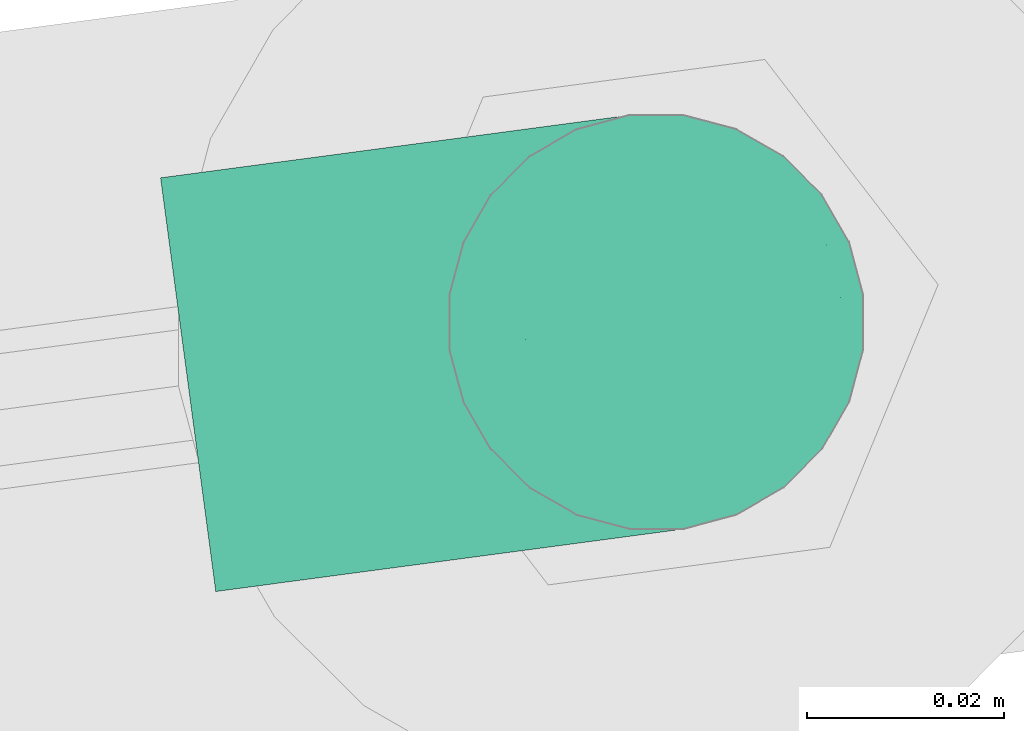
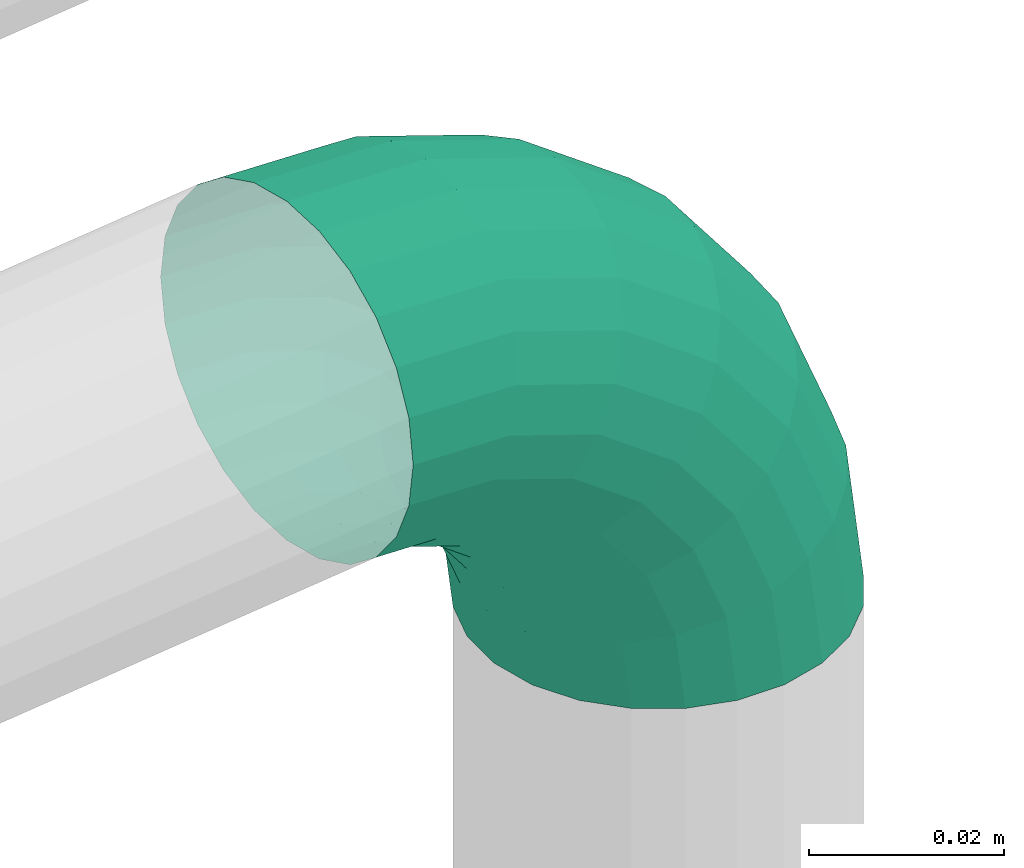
# One storey, part 328 of 374: 1 flow segment.
"""IFC2X3 building model written with IfcOpenShell, lengths in metres."""

from ifc_helpers import new_model, si_unit, direction, origin, place, context, subcontext, project, spatial, open_shell, surface_model, source, transform, mapped, element, save


model = new_model("IFC2X3")

# Units and contexts
model_context = context("Model", 3, precision=1e-05, world=origin(), true_north=direction((-0.4480736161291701, 0.8939966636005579)))
body_context = subcontext(model_context, "Body", "Model", "MODEL_VIEW")
ifc_project = project(units=[si_unit("LENGTHUNIT", "METRE"), si_unit("AREAUNIT", "SQUARE_METRE"), si_unit("VOLUMEUNIT", "CUBIC_METRE"), si_unit("PLANEANGLEUNIT", "RADIAN"), si_unit("THERMODYNAMICTEMPERATUREUNIT", "KELVIN"), si_unit("MASSUNIT", "GRAM", prefix="KILO"), si_unit("TIMEUNIT", "SECOND")], contexts=[model_context])

# Site, building, storey
site_placement = place(None, origin())
site = spatial("IfcSite", under=ifc_project, at=site_placement, Name="Site 1", CompositionType="ELEMENT")
building_placement = place(site_placement, origin())
building = spatial("IfcBuilding", under=site, at=building_placement, Name="Undefined", CompositionType="ELEMENT")
storey_placement = place(building_placement, origin())
storey = spatial("IfcBuildingStorey", under=building, at=storey_placement, Name="Rez de chauss\x8ee", CompositionType="ELEMENT", Elevation=0.0)

# Flow segment
shared_shape = source(origin(), body_context, "Body", "SurfaceModel", [
    surface_model("IfcFaceBasedSurfaceModel", [(0.01806482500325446, 7.105427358e-15, 0.0), (0.017970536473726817, 0.005533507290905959, 0.0), (9.428852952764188e-05, 0.005533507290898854, 0.0), (0.0, 0.0, 0.0), (-0.017172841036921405, 0.00613233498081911, -0.004587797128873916), (-0.01744928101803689, 0.0006051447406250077, -0.004636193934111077), (-0.03265412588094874, 0.007289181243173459, -0.013450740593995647), (-0.0330938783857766, 0.0017741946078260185, -0.013592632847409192), (-0.045294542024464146, 0.008925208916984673, -0.02598483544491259), (-0.045867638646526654, 0.0034274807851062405, -0.02625895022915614), (-0.054232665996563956, 0.010928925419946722, -0.041335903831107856), (-0.05490005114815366, 0.005452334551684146, -0.04177195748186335), (-0.05885937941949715, 0.013163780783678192, -0.05845779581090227), (-0.059575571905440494, 0.007710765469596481, -0.05907446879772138), (0.01769409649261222, 0.010875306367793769, -0.0014203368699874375), (0.00037072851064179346, 0.010875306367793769, -0.0014203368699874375), (-0.016362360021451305, 0.011455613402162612, -0.005866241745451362), (-0.03136483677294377, 0.012576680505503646, -0.014455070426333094), (-0.04361430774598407, 0.014162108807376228, -0.026601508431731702), (-0.05227599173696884, 0.016103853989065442, -0.0414777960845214), (-0.05675960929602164, 0.018269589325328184, -0.05807013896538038), (0.017254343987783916, 0.015661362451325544, -0.0041642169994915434), (0.0008104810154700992, 0.015661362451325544, -0.004164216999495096), (-0.01507307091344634, 0.016212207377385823, -0.008384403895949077), (-0.029313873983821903, 0.01727635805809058, -0.016537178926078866), (-0.04094144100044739, 0.01878129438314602, -0.02806694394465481), (-0.049163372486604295, 0.02062445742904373, -0.042187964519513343), (-0.05341935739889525, 0.02268023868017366, -0.05793791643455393), (0.016681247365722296, 0.01956551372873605, -0.008044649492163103), (0.001383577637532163, 0.01956551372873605, -0.008044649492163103), (-0.01339283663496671, 0.020077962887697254, -0.011970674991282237), (-0.026641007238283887, 0.021067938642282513, -0.01955517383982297), (-0.03745809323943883, 0.02246797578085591, -0.03028127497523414), (-0.04510692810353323, 0.0241826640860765, -0.04341801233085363), (-0.04906625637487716, 0.026095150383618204, -0.05807013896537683), (0.016013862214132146, 0.022321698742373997, -0.012797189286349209), (0.0020509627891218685, 0.022321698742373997, -0.012797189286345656), (-0.011436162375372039, 0.02278943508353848, -0.016380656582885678), (-0.023528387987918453, 0.02369303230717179, -0.023303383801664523), (-0.03340164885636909, 0.024970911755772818, -0.03309359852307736), (-0.040383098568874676, 0.026535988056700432, -0.04508411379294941), (-0.04399696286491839, 0.028281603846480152, -0.05845779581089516), (0.015297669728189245, 0.023742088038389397, -0.018097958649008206), (0.00276715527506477, 0.023742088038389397, -0.018097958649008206), (-0.009336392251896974, 0.024161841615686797, -0.021313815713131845), (-0.02018813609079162, 0.02497274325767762, -0.0275263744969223), (-0.029048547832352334, 0.02611953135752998, -0.03631225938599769), (-0.03531380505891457, 0.027524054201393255, -0.04707272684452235), (-0.0385569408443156, 0.02909059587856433, -0.05907446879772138), (0.014581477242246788, 0.023729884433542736, -0.02358571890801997), (0.0034833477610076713, 0.023729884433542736, -0.02358571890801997), (-0.007236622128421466, 0.024101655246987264, -0.026433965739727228), (-0.016847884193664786, 0.02481986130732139, -0.03193635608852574), (-0.02469544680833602, 0.02583555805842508, -0.03971791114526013), (-0.0302445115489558, 0.027079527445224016, -0.04924833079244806), (-0.03311691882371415, 0.02846699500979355, -0.059878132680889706), (0.013914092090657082, 0.02228591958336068, -0.02888648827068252), (0.004150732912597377, 0.022285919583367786, -0.028886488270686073), (-0.005279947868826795, 0.022612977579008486, -0.031392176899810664), (-0.013735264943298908, 0.023244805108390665, -0.03623279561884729), (-0.020639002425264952, 0.02413834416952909, -0.04307846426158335), (-0.025520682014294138, 0.025232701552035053, -0.051462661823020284), (-0.028047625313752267, 0.026453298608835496, -0.060814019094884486), (0.013340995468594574, 0.01950859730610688, -0.03363902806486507), (0.0047238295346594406, 0.01950859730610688, -0.033639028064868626), (-0.0035997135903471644, 0.019797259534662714, -0.035850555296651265), (-0.011062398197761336, 0.0203549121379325, -0.04012289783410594), (-0.017155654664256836, 0.021143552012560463, -0.04616490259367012), (-0.02146423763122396, 0.022109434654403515, -0.05356481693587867), (-0.02369452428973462, 0.023186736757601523, -0.06181834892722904), (0.012901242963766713, 0.015587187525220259, -0.037519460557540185), (0.005163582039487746, 0.015587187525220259, -0.03751946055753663), (-0.0023104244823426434, 0.015846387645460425, -0.03950526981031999), (-0.009011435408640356, 0.016347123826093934, -0.043341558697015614), (-0.01448278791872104, 0.017055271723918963, -0.048766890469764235), (-0.018351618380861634, 0.017922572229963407, -0.05541153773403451), (-0.02035427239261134, 0.018889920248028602, -0.06282267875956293), (0.012624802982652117, 0.010788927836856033, -0.040263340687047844), (0.005440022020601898, 0.010788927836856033, -0.0402633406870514), (-0.0014999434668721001, 0.011029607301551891, -0.04210725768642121), (-0.007722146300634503, 0.01149456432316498, -0.045669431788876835), (-0.012802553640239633, 0.012152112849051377, -0.05070710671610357), (-0.0163949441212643, 0.012957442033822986, -0.056876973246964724), (-0.018254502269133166, 0.013855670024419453, -0.06375856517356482), (0.012530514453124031, 0.005440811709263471, -0.041683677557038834), (0.005534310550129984, 0.0054408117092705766, -0.041683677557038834), (-0.0012235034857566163, 0.005675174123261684, -0.04347919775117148), (-0.007282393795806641, 0.006127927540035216, -0.046947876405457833), (-0.012229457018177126, 0.0067682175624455, -0.05185332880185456), (-0.015727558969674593, 0.007552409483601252, -0.05786125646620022), (-0.01753830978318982, 0.008427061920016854, -0.0645622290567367), (0.012624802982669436, -9.269558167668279e-05, -0.04168367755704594), (0.005440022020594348, -9.269558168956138e-05, -0.04168367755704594), (-0.001499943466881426, 0.00014798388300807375, -0.043527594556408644), (-0.007722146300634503, 0.0006129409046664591, -0.047089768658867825), (-0.012802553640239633, 0.001270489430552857, -0.05212744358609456), (-0.0163949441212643, 0.002075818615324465, -0.058297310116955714), (-0.018254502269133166, 0.0029740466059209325, -0.06517890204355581), (0.012901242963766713, -0.005434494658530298, -0.0402633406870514), (0.005163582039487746, -0.005434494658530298, -0.040263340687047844), (-0.0023104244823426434, -0.005175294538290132, -0.0422491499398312), (-0.009011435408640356, -0.004674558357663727, -0.046085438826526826), (-0.01448278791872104, -0.0039664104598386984, -0.051510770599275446), (-0.018351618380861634, -0.0030991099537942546, -0.05815541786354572), (-0.02035427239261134, -0.0021317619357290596, -0.06556655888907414), (0.013340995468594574, -0.010220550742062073, -0.03751946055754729), (0.0047238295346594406, -0.010220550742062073, -0.03751946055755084), (-0.0035997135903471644, -0.009931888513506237, -0.03973098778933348), (-0.011062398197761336, -0.009374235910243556, -0.04400333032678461), (-0.017155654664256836, -0.00858559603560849, -0.05004533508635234), (-0.02146423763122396, -0.007619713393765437, -0.057445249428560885), (-0.02369452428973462, -0.006542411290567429, -0.06569878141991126), (0.013914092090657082, -0.01412470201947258, -0.03363902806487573), (0.004150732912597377, -0.014124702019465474, -0.033639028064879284), (-0.005279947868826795, -0.013797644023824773, -0.036144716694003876), (-0.013735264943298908, -0.013165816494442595, -0.0409853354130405), (-0.020639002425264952, -0.012272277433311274, -0.04783100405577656), (-0.025520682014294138, -0.011177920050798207, -0.05621520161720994), (-0.028047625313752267, -0.009957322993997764, -0.0655665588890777), (0.014581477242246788, -0.01688088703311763, -0.028886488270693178), (0.0034833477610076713, -0.01688088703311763, -0.028886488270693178), (-0.007236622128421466, -0.016509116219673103, -0.031734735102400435), (-0.016847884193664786, -0.015790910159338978, -0.03723712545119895), (-0.02469544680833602, -0.014775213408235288, -0.04501868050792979), (-0.0302445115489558, -0.01353124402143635, -0.054549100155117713), (-0.03311691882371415, -0.012143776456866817, -0.06517890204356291), (0.015297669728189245, -0.01830127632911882, -0.02358571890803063), (0.00276715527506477, -0.01830127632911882, -0.02358571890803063), (-0.009336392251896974, -0.01788152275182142, -0.026801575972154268), (-0.02018813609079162, -0.017070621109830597, -0.033014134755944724), (-0.029048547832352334, -0.01592383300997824, -0.04180001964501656), (-0.03531380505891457, -0.014519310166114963, -0.05256048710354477), (-0.0385569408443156, -0.012952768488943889, -0.06456222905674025), (0.016013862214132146, -0.01828907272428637, -0.018097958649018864), (0.0020509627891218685, -0.01828907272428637, -0.018097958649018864), (-0.011436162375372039, -0.01782133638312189, -0.021681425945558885), (-0.023528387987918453, -0.016917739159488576, -0.02860415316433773), (-0.03340164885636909, -0.01563985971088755, -0.038394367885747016), (-0.040383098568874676, -0.014074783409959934, -0.05038488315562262), (-0.04399696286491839, -0.012329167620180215, -0.06375856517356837), (0.016681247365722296, -0.01684510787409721, -0.012797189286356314), (0.001383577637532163, -0.01684510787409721, -0.012797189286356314), (-0.01339283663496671, -0.016332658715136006, -0.01672321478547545), (-0.026641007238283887, -0.015342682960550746, -0.02430771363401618), (-0.03745809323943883, -0.01394264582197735, -0.03503381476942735), (-0.04510692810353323, -0.01222795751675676, -0.04817055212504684), (-0.04906625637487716, -0.010315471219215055, -0.06282267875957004), (0.017254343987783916, -0.014067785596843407, -0.008044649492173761), (0.0008104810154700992, -0.014067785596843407, -0.008044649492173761), (-0.01507307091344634, -0.013516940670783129, -0.012264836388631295), (-0.029313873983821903, -0.012452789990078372, -0.020417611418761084), (-0.04094144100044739, -0.010947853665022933, -0.03194737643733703), (-0.049163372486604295, -0.009104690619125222, -0.04606839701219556), (-0.05341935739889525, -0.007048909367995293, -0.06181834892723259), (0.01769409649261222, -0.010146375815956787, -0.004164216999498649), (0.00037072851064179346, -0.010146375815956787, -0.004164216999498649), (-0.016362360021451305, -0.009566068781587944, -0.008610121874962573), (-0.03136483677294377, -0.008445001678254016, -0.017198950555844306), (-0.04361430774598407, -0.006859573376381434, -0.029345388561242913), (-0.05227599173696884, -0.00491782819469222, -0.04422167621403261), (-0.05675960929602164, -0.002752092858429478, -0.060814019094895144), (0.017970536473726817, -0.0053481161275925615, -0.0014203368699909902), (9.428852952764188e-05, -0.005348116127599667, -0.001420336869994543), (-0.017172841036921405, -0.004749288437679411, -0.006008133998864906), (-0.03265412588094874, -0.0035924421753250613, -0.014871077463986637), (-0.045294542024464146, -0.001956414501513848, -0.02740517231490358), (-0.05423266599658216, 4.730200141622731e-05, -0.04275624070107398), (-0.05885937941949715, 0.002282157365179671, -0.05987813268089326)], [open_shell([[[0, 1, 2, 3]], [[3, 2, 4, 5]], [[5, 4, 6, 7]], [[7, 6, 8, 9]], [[9, 8, 10, 11]], [[11, 10, 12, 13]], [[1, 14, 15, 2]], [[2, 15, 16, 4]], [[4, 16, 17, 6]], [[6, 17, 18, 8]], [[8, 18, 19, 10]], [[10, 19, 20, 12]], [[14, 21, 22, 15]], [[15, 22, 23, 16]], [[16, 23, 24, 17]], [[17, 24, 25, 18]], [[18, 25, 26, 19]], [[19, 26, 27, 20]], [[21, 28, 29, 22]], [[22, 29, 30, 23]], [[23, 30, 31, 24]], [[24, 31, 32, 25]], [[25, 32, 33, 26]], [[26, 33, 34, 27]], [[28, 35, 36, 29]], [[29, 36, 37, 30]], [[30, 37, 38, 31]], [[31, 38, 39, 32]], [[32, 39, 40, 33]], [[33, 40, 41, 34]], [[35, 42, 43, 36]], [[36, 43, 44, 37]], [[37, 44, 45, 38]], [[38, 45, 46, 39]], [[39, 46, 47, 40]], [[40, 47, 48, 41]], [[42, 49, 50, 43]], [[43, 50, 51, 44]], [[44, 51, 52, 45]], [[45, 52, 53, 46]], [[46, 53, 54, 47]], [[47, 54, 55, 48]], [[49, 56, 57, 50]], [[50, 57, 58, 51]], [[51, 58, 59, 52]], [[52, 59, 60, 53]], [[53, 60, 61, 54]], [[54, 61, 62, 55]], [[56, 63, 64, 57]], [[57, 64, 65, 58]], [[58, 65, 66, 59]], [[59, 66, 67, 60]], [[60, 67, 68, 61]], [[61, 68, 69, 62]], [[63, 70, 71, 64]], [[64, 71, 72, 65]], [[65, 72, 73, 66]], [[66, 73, 74, 67]], [[67, 74, 75, 68]], [[68, 75, 76, 69]], [[70, 77, 78, 71]], [[71, 78, 79, 72]], [[72, 79, 80, 73]], [[73, 80, 81, 74]], [[74, 81, 82, 75]], [[75, 82, 83, 76]], [[77, 84, 85, 78]], [[78, 85, 86, 79]], [[79, 86, 87, 80]], [[80, 87, 88, 81]], [[81, 88, 89, 82]], [[82, 89, 90, 83]], [[84, 91, 92, 85]], [[85, 92, 93, 86]], [[86, 93, 94, 87]], [[87, 94, 95, 88]], [[88, 95, 96, 89]], [[89, 96, 97, 90]], [[91, 98, 99, 92]], [[92, 99, 100, 93]], [[93, 100, 101, 94]], [[94, 101, 102, 95]], [[95, 102, 103, 96]], [[96, 103, 104, 97]], [[98, 105, 106, 99]], [[99, 106, 107, 100]], [[100, 107, 108, 101]], [[101, 108, 109, 102]], [[102, 109, 110, 103]], [[103, 110, 111, 104]], [[105, 112, 113, 106]], [[106, 113, 114, 107]], [[107, 114, 115, 108]], [[108, 115, 116, 109]], [[109, 116, 117, 110]], [[110, 117, 118, 111]], [[112, 119, 120, 113]], [[113, 120, 121, 114]], [[114, 121, 122, 115]], [[115, 122, 123, 116]], [[116, 123, 124, 117]], [[117, 124, 125, 118]], [[119, 126, 127, 120]], [[120, 127, 128, 121]], [[121, 128, 129, 122]], [[122, 129, 130, 123]], [[123, 130, 131, 124]], [[124, 131, 132, 125]], [[126, 133, 134, 127]], [[127, 134, 135, 128]], [[128, 135, 136, 129]], [[129, 136, 137, 130]], [[130, 137, 138, 131]], [[131, 138, 139, 132]], [[133, 140, 141, 134]], [[134, 141, 142, 135]], [[135, 142, 143, 136]], [[136, 143, 144, 137]], [[137, 144, 145, 138]], [[138, 145, 146, 139]], [[140, 147, 148, 141]], [[141, 148, 149, 142]], [[142, 149, 150, 143]], [[143, 150, 151, 144]], [[144, 151, 152, 145]], [[145, 152, 153, 146]], [[147, 154, 155, 148]], [[148, 155, 156, 149]], [[149, 156, 157, 150]], [[150, 157, 158, 151]], [[151, 158, 159, 152]], [[152, 159, 160, 153]], [[154, 161, 162, 155]], [[155, 162, 163, 156]], [[156, 163, 164, 157]], [[157, 164, 165, 158]], [[158, 165, 166, 159]], [[159, 166, 167, 160]], [[161, 0, 3, 162]], [[162, 3, 5, 163]], [[163, 5, 7, 164]], [[164, 7, 9, 165]], [[165, 9, 11, 166]], [[166, 11, 13, 167]]])]),
])
flow_segment_placement = place(storey_placement, origin())
element("IfcFlowSegment", 1, at=flow_segment_placement, inside=storey, Name="Tube coudé", ObjectType="Tube coudé", context=body_context, shape_type="MappedRepresentation", body=[
    mapped(shared_shape, transform((65.95902716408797, 20.3403145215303, 3.9750507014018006), x_axis=(0.12937959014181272, 0.01726292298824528, -0.9914448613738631), y_axis=(-0.2583377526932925, 0.9659069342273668, -0.01689378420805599), z_axis=(0.9573518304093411, 0.25831334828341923, 0.12942830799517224))),
])

save(model, "model.ifc")
